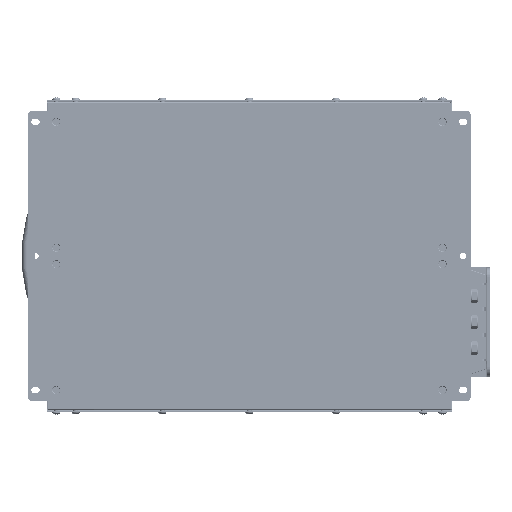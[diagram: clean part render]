
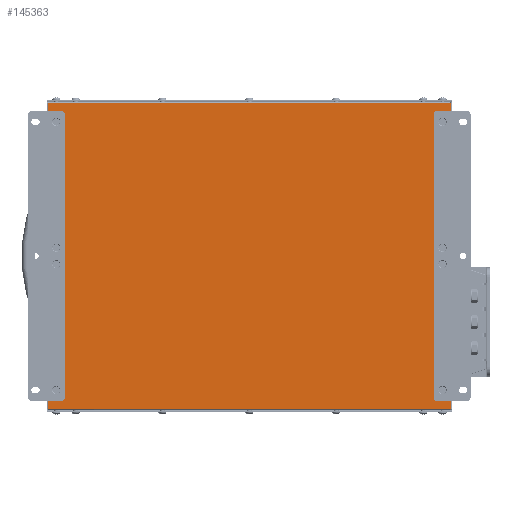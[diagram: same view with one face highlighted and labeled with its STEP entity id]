
A CAD part, front view. The second image highlights one B-rep face of the part: STEP entity #145363.
In plain terms, the highlighted planar face has unit normal (0, -1, 0).
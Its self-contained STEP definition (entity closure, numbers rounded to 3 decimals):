
#8414=PLANE('',#154145);
#14167=FACE_OUTER_BOUND('',#22483,.T.);
#22483=EDGE_LOOP('',(#110146,#110147,#110148,#110149,#110150,#110151,#110152,
#110153,#110154,#110155,#110156,#110157,#110158,#110159,#110160,#110161));
#33890=LINE('',#230037,#46243);
#33918=LINE('',#230263,#46271);
#33940=LINE('',#230445,#46293);
#33942=LINE('',#230448,#46295);
#33944=LINE('',#230452,#46297);
#33945=LINE('',#230454,#46298);
#33946=LINE('',#230456,#46299);
#33947=LINE('',#230460,#46300);
#33948=LINE('',#230464,#46301);
#33949=LINE('',#230465,#46302);
#33950=LINE('',#230467,#46303);
#33951=LINE('',#230471,#46304);
#46243=VECTOR('',#176847,10.);
#46271=VECTOR('',#176923,10.);
#46293=VECTOR('',#177003,10.);
#46295=VECTOR('',#177005,10.);
#46297=VECTOR('',#177009,10.);
#46298=VECTOR('',#177010,10.);
#46299=VECTOR('',#177011,10.);
#46300=VECTOR('',#177014,10.);
#46301=VECTOR('',#177017,10.);
#46302=VECTOR('',#177018,10.);
#46303=VECTOR('',#177019,10.);
#46304=VECTOR('',#177022,10.);
#53652=CIRCLE('',#154146,4.);
#53653=CIRCLE('',#154147,4.);
#53654=CIRCLE('',#154148,4.);
#53655=CIRCLE('',#154149,4.);
#63430=VERTEX_POINT('',#230028);
#63431=VERTEX_POINT('',#230036);
#63458=VERTEX_POINT('',#230254);
#63459=VERTEX_POINT('',#230262);
#63482=VERTEX_POINT('',#230444);
#63483=VERTEX_POINT('',#230446);
#63484=VERTEX_POINT('',#230451);
#63485=VERTEX_POINT('',#230453);
#63486=VERTEX_POINT('',#230455);
#63487=VERTEX_POINT('',#230457);
#63488=VERTEX_POINT('',#230459);
#63489=VERTEX_POINT('',#230461);
#63490=VERTEX_POINT('',#230463);
#63491=VERTEX_POINT('',#230466);
#63492=VERTEX_POINT('',#230468);
#63493=VERTEX_POINT('',#230470);
#80139=EDGE_CURVE('',#63431,#63430,#33890,.T.);
#80187=EDGE_CURVE('',#63459,#63458,#33918,.T.);
#80232=EDGE_CURVE('',#63482,#63431,#33940,.T.);
#80234=EDGE_CURVE('',#63458,#63483,#33942,.T.);
#80236=EDGE_CURVE('',#63484,#63482,#33944,.T.);
#80237=EDGE_CURVE('',#63430,#63485,#33945,.T.);
#80238=EDGE_CURVE('',#63485,#63486,#33946,.T.);
#80239=EDGE_CURVE('',#63486,#63487,#53652,.T.);
#80240=EDGE_CURVE('',#63487,#63488,#33947,.T.);
#80241=EDGE_CURVE('',#63488,#63489,#53653,.T.);
#80242=EDGE_CURVE('',#63489,#63490,#33948,.T.);
#80243=EDGE_CURVE('',#63490,#63459,#33949,.T.);
#80244=EDGE_CURVE('',#63483,#63491,#33950,.T.);
#80245=EDGE_CURVE('',#63491,#63492,#53654,.T.);
#80246=EDGE_CURVE('',#63492,#63493,#33951,.T.);
#80247=EDGE_CURVE('',#63493,#63484,#53655,.T.);
#110146=ORIENTED_EDGE('',*,*,#80236,.T.);
#110147=ORIENTED_EDGE('',*,*,#80232,.T.);
#110148=ORIENTED_EDGE('',*,*,#80139,.T.);
#110149=ORIENTED_EDGE('',*,*,#80237,.T.);
#110150=ORIENTED_EDGE('',*,*,#80238,.T.);
#110151=ORIENTED_EDGE('',*,*,#80239,.T.);
#110152=ORIENTED_EDGE('',*,*,#80240,.T.);
#110153=ORIENTED_EDGE('',*,*,#80241,.T.);
#110154=ORIENTED_EDGE('',*,*,#80242,.T.);
#110155=ORIENTED_EDGE('',*,*,#80243,.T.);
#110156=ORIENTED_EDGE('',*,*,#80187,.T.);
#110157=ORIENTED_EDGE('',*,*,#80234,.T.);
#110158=ORIENTED_EDGE('',*,*,#80244,.T.);
#110159=ORIENTED_EDGE('',*,*,#80245,.T.);
#110160=ORIENTED_EDGE('',*,*,#80246,.T.);
#110161=ORIENTED_EDGE('',*,*,#80247,.T.);
#145363=ADVANCED_FACE('',(#14167),#8414,.F.);
#154145=AXIS2_PLACEMENT_3D('',#230450,#177007,#177008);
#154146=AXIS2_PLACEMENT_3D('',#230458,#177012,#177013);
#154147=AXIS2_PLACEMENT_3D('',#230462,#177015,#177016);
#154148=AXIS2_PLACEMENT_3D('',#230469,#177020,#177021);
#154149=AXIS2_PLACEMENT_3D('',#230472,#177023,#177024);
#176847=DIRECTION('',(1.,0.,0.));
#176923=DIRECTION('',(-1.,0.,0.));
#177003=DIRECTION('',(0.,0.,-1.));
#177005=DIRECTION('',(0.,0.,-1.));
#177007=DIRECTION('center_axis',(0.,1.,0.));
#177008=DIRECTION('ref_axis',(0.,0.,1.));
#177009=DIRECTION('',(-1.,0.,0.));
#177010=DIRECTION('',(0.,0.,1.));
#177011=DIRECTION('',(-1.,0.,0.));
#177012=DIRECTION('center_axis',(0.,1.,0.));
#177013=DIRECTION('ref_axis',(-1.,0.,0.));
#177014=DIRECTION('',(0.,0.,1.));
#177015=DIRECTION('center_axis',(0.,1.,0.));
#177016=DIRECTION('ref_axis',(0.,0.,1.));
#177017=DIRECTION('',(1.,0.,0.));
#177018=DIRECTION('',(0.,0.,1.));
#177019=DIRECTION('',(1.,0.,0.));
#177020=DIRECTION('center_axis',(0.,1.,0.));
#177021=DIRECTION('ref_axis',(1.,0.,0.));
#177022=DIRECTION('',(0.,0.,-1.));
#177023=DIRECTION('center_axis',(0.,1.,0.));
#177024=DIRECTION('ref_axis',(0.,0.,-1.));
#230028=CARTESIAN_POINT('',(-3.613,0.,-319.602));
#230036=CARTESIAN_POINT('',(-419.813,0.,-319.602));
#230037=CARTESIAN_POINT('',(-315.763,0.,-319.602));
#230254=CARTESIAN_POINT('',(-419.813,0.,-4.202));
#230262=CARTESIAN_POINT('',(-3.613,0.,-4.202));
#230263=CARTESIAN_POINT('',(-107.663,0.,-4.202));
#230444=CARTESIAN_POINT('',(-419.813,0.,-311.902));
#230445=CARTESIAN_POINT('',(-419.813,0.,-82.352));
#230446=CARTESIAN_POINT('',(-419.813,0.,-11.902));
#230448=CARTESIAN_POINT('',(-419.813,0.,-82.352));
#230450=CARTESIAN_POINT('Origin',(-211.713,0.,-161.902));
#230451=CARTESIAN_POINT('',(-406.213,0.,-311.902));
#230452=CARTESIAN_POINT('',(-323.963,0.,-311.902));
#230453=CARTESIAN_POINT('',(-3.613,0.,-311.902));
#230454=CARTESIAN_POINT('',(-3.613,0.,-241.452));
#230455=CARTESIAN_POINT('',(-17.213,0.,-311.902));
#230456=CARTESIAN_POINT('',(-114.463,0.,-311.902));
#230457=CARTESIAN_POINT('',(-21.213,0.,-307.902));
#230458=CARTESIAN_POINT('Origin',(-17.213,0.,-307.902));
#230459=CARTESIAN_POINT('',(-21.213,0.,-15.902));
#230460=CARTESIAN_POINT('',(-21.213,0.,-88.902));
#230461=CARTESIAN_POINT('',(-17.213,0.,-11.902));
#230462=CARTESIAN_POINT('Origin',(-17.213,0.,-15.902));
#230463=CARTESIAN_POINT('',(-3.613,0.,-11.902));
#230464=CARTESIAN_POINT('',(-99.463,0.,-11.902));
#230465=CARTESIAN_POINT('',(-3.613,0.,-241.452));
#230466=CARTESIAN_POINT('',(-406.213,0.,-11.902));
#230467=CARTESIAN_POINT('',(-308.963,0.,-11.902));
#230468=CARTESIAN_POINT('',(-402.213,0.,-15.902));
#230469=CARTESIAN_POINT('Origin',(-406.213,0.,-15.902));
#230470=CARTESIAN_POINT('',(-402.213,0.,-307.902));
#230471=CARTESIAN_POINT('',(-402.213,0.,-234.902));
#230472=CARTESIAN_POINT('Origin',(-406.213,0.,-307.902));
